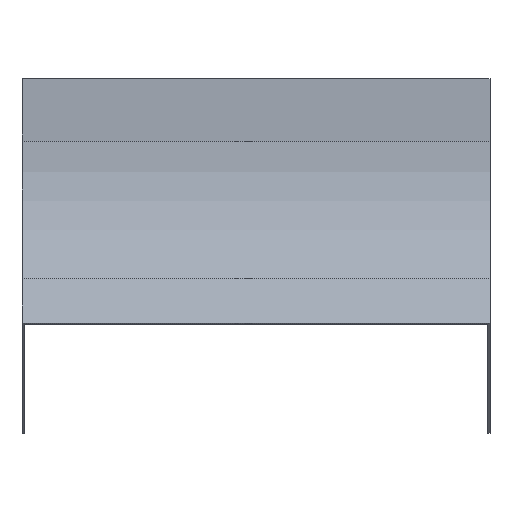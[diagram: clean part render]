
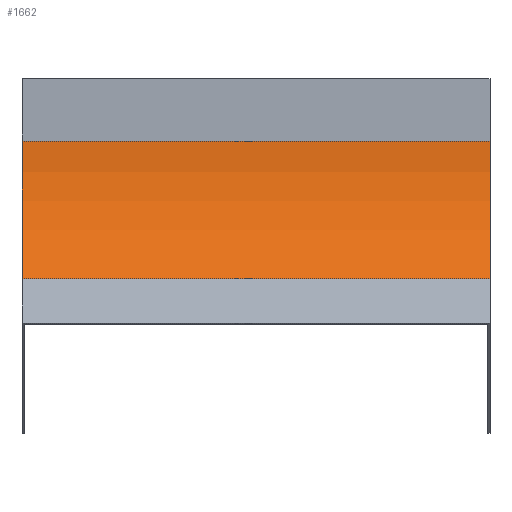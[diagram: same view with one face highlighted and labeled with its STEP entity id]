
A CAD part, front view. The second image highlights one B-rep face of the part: STEP entity #1662.
In plain terms, the highlighted cylindrical face has radius 125 mm (diameter 250 mm), a partial arc.
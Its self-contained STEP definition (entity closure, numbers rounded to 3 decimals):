
#49 = DIRECTION ( 'NONE',  ( -1., 0., 0. ) ) ;
#66 = LINE ( 'NONE', #447, #499 ) ;
#139 = LINE ( 'NONE', #1565, #700 ) ;
#149 = CIRCLE ( 'NONE', #1085, 125. ) ;
#185 = ORIENTED_EDGE ( 'NONE', *, *, #921, .F. ) ;
#258 = DIRECTION ( 'NONE',  ( -1., 0., 0. ) ) ;
#303 = AXIS2_PLACEMENT_3D ( 'NONE', #1038, #258, #533 ) ;
#308 = DIRECTION ( 'NONE',  ( -1., 0., 0. ) ) ;
#347 = VERTEX_POINT ( 'NONE', #1650 ) ;
#353 = CARTESIAN_POINT ( 'NONE',  ( 150., 0., -40. ) ) ;
#392 = EDGE_LOOP ( 'NONE', ( #612, #185, #795, #507 ) ) ;
#447 = CARTESIAN_POINT ( 'NONE',  ( 150., 0., -40. ) ) ;
#499 = VECTOR ( 'NONE', #308, 1000. ) ;
#507 = ORIENTED_EDGE ( 'NONE', *, *, #577, .T. ) ;
#533 = DIRECTION ( 'NONE',  ( 0., 0., 1. ) ) ;
#553 = EDGE_CURVE ( 'NONE', #906, #1263, #149, .T. ) ;
#577 = EDGE_CURVE ( 'NONE', #1489, #906, #66, .T. ) ;
#612 = ORIENTED_EDGE ( 'NONE', *, *, #553, .T. ) ;
#700 = VECTOR ( 'NONE', #912, 1000. ) ;
#703 = FACE_OUTER_BOUND ( 'NONE', #392, .T. ) ;
#726 = AXIS2_PLACEMENT_3D ( 'NONE', #1479, #1536, #737 ) ;
#737 = DIRECTION ( 'NONE',  ( 0., 0., 1. ) ) ;
#795 = ORIENTED_EDGE ( 'NONE', *, *, #924, .F. ) ;
#821 = CARTESIAN_POINT ( 'NONE',  ( -150., -36.612, -128.388 ) ) ;
#833 = CYLINDRICAL_SURFACE ( 'NONE', #726, 125. ) ;
#906 = VERTEX_POINT ( 'NONE', #1400 ) ;
#912 = DIRECTION ( 'NONE',  ( -1., 0., 0. ) ) ;
#921 = EDGE_CURVE ( 'NONE', #347, #1263, #139, .T. ) ;
#924 = EDGE_CURVE ( 'NONE', #1489, #347, #938, .T. ) ;
#938 = CIRCLE ( 'NONE', #303, 125. ) ;
#1038 = CARTESIAN_POINT ( 'NONE',  ( 150., -125., -40. ) ) ;
#1085 = AXIS2_PLACEMENT_3D ( 'NONE', #1208, #49, #1236 ) ;
#1208 = CARTESIAN_POINT ( 'NONE',  ( -150., -125., -40. ) ) ;
#1236 = DIRECTION ( 'NONE',  ( 0., 0., 1. ) ) ;
#1263 = VERTEX_POINT ( 'NONE', #821 ) ;
#1400 = CARTESIAN_POINT ( 'NONE',  ( -150., 0., -40. ) ) ;
#1479 = CARTESIAN_POINT ( 'NONE',  ( 150., -125., -40. ) ) ;
#1489 = VERTEX_POINT ( 'NONE', #353 ) ;
#1536 = DIRECTION ( 'NONE',  ( -1., 0., 0. ) ) ;
#1565 = CARTESIAN_POINT ( 'NONE',  ( 150., -36.612, -128.388 ) ) ;
#1650 = CARTESIAN_POINT ( 'NONE',  ( 150., -36.612, -128.388 ) ) ;
#1662 = ADVANCED_FACE ( 'NONE', ( #703 ), #833, .F. ) ;
